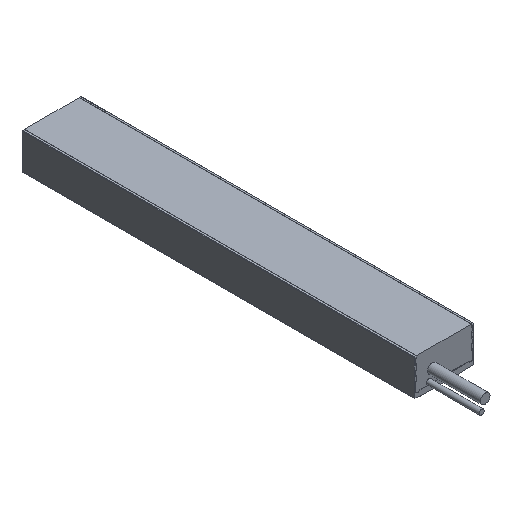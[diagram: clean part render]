
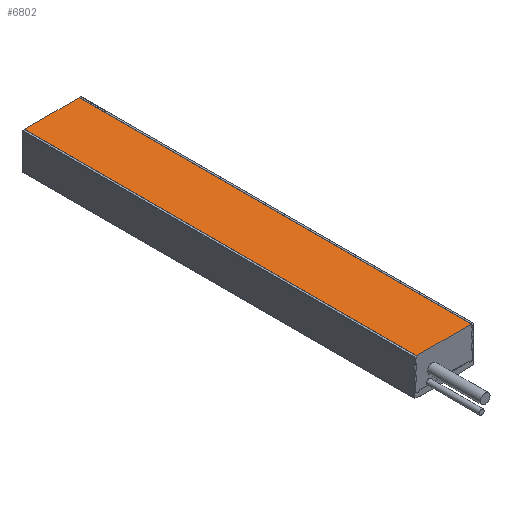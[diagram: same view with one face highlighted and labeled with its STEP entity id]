
A CAD part, isometric view. The second image highlights one B-rep face of the part: STEP entity #6802.
In plain terms, the highlighted planar face has unit normal (0, 0, 1).
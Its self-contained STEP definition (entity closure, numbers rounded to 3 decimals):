
#1061=ORIENTED_EDGE('',*,*,#2095,.F.);
#1062=ORIENTED_EDGE('',*,*,#2096,.F.);
#1063=ORIENTED_EDGE('',*,*,#2097,.T.);
#1064=ORIENTED_EDGE('',*,*,#2098,.T.);
#2095=EDGE_CURVE('',#2627,#2628,#3159,.T.);
#2096=EDGE_CURVE('',#2629,#2627,#3160,.T.);
#2097=EDGE_CURVE('',#2629,#2630,#3161,.T.);
#2098=EDGE_CURVE('',#2630,#2628,#3162,.T.);
#2627=VERTEX_POINT('',#9666);
#2628=VERTEX_POINT('',#9667);
#2629=VERTEX_POINT('',#9669);
#2630=VERTEX_POINT('',#9671);
#3159=LINE('',#9665,#3736);
#3160=LINE('',#9668,#3737);
#3161=LINE('',#9670,#3738);
#3162=LINE('',#9672,#3739);
#3736=VECTOR('',#8249,1000.);
#3737=VECTOR('',#8250,1000.);
#3738=VECTOR('',#8251,1000.);
#3739=VECTOR('',#8252,1000.);
#4105=EDGE_LOOP('',(#1061,#1062,#1063,#1064));
#4416=FACE_BOUND('',#4105,.T.);
#4657=PLANE('',#7179);
#6802=ADVANCED_FACE('',(#4416),#4657,.T.);
#7179=AXIS2_PLACEMENT_3D('',#9664,#8247,#8248);
#8247=DIRECTION('',(0.,0.,1.));
#8248=DIRECTION('',(-1.,0.,0.));
#8249=DIRECTION('',(0.,1.,0.));
#8250=DIRECTION('',(-1.,0.,0.));
#8251=DIRECTION('',(0.,1.,0.));
#8252=DIRECTION('',(-1.,0.,0.));
#9664=CARTESIAN_POINT('',(27.05,309.2,27.62));
#9665=CARTESIAN_POINT('',(-21.15,-248.8,27.62));
#9666=CARTESIAN_POINT('',(-21.15,-26.6,27.62));
#9667=CARTESIAN_POINT('',(-21.15,309.2,27.62));
#9668=CARTESIAN_POINT('',(27.05,-26.6,27.62));
#9669=CARTESIAN_POINT('',(25.85,-26.6,27.62));
#9670=CARTESIAN_POINT('',(25.85,-248.8,27.62));
#9671=CARTESIAN_POINT('',(25.85,309.2,27.62));
#9672=CARTESIAN_POINT('',(27.05,309.2,27.62));
